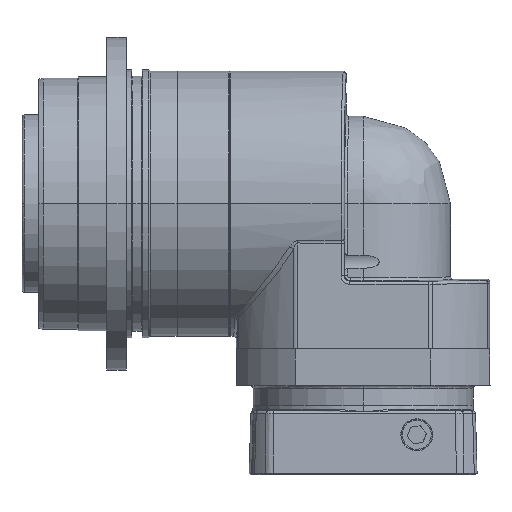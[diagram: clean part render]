
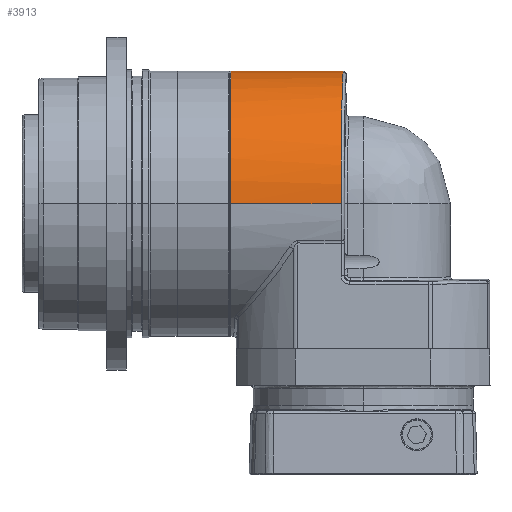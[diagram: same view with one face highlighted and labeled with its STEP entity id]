
A CAD part, top view. The second image highlights one B-rep face of the part: STEP entity #3913.
In plain terms, the highlighted cylindrical face has radius 47 mm (diameter 94 mm), a partial arc.
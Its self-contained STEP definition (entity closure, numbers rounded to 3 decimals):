
#511 = DIRECTION ( 'NONE',  ( 0., 1., 0. ) ) ;
#2087 = CARTESIAN_POINT ( 'NONE',  ( -28.432, 37.425, 307.64 ) ) ;
#2156 = DIRECTION ( 'NONE',  ( 0., 0., -1. ) ) ;
#2392 = CARTESIAN_POINT ( 'NONE',  ( -40.618, 23.928, 307.409 ) ) ;
#2702 = CARTESIAN_POINT ( 'NONE',  ( -15.673, 44.454, 307.76 ) ) ;
#3329 = CARTESIAN_POINT ( 'NONE',  ( -42.222, 20.646, 307.353 ) ) ;
#3785 = EDGE_CURVE ( 'NONE', #20020, #50247, #35482, .T. ) ;
#3913 = ADVANCED_FACE ( 'NONE', ( #61505 ), #55860, .T. ) ;
#3991 = CARTESIAN_POINT ( 'NONE',  ( 0., 0., 347. ) ) ;
#5390 = B_SPLINE_CURVE_WITH_KNOTS ( 'NONE', 3,
 ( #12709, #46190, #59356, #16779, #7390, #55269, #3329, #2392, #31481, #21484, #25865, #22403, #2087, #50562, #26475, #45569, #2702, #40554, #41489, #60595, #35852, #40858 ),
 .UNSPECIFIED., .F., .F.,
 ( 4, 3, 3, 3, 3, 3, 3, 4 ),
 ( 0., 0.12, 0.245, 0.371, 0.497, 0.623, 0.748, 0.847 ),
 .UNSPECIFIED. ) ;
#5897 = CARTESIAN_POINT ( 'NONE',  ( -5.734, -46.737, 307.799 ) ) ;
#6519 = VERTEX_POINT ( 'NONE', #54570 ) ;
#7390 = CARTESIAN_POINT ( 'NONE',  ( -45.042, 13.895, 307.238 ) ) ;
#7535 = EDGE_CURVE ( 'NONE', #6519, #11761, #5390, .T. ) ;
#8053 = ORIENTED_EDGE ( 'NONE', *, *, #29625, .F. ) ;
#8423 = ORIENTED_EDGE ( 'NONE', *, *, #32528, .T. ) ;
#9369 = CARTESIAN_POINT ( 'NONE',  ( -39.009, -27.216, 307.465 ) ) ;
#9921 = EDGE_LOOP ( 'NONE', ( #61092, #32649, #8423, #54722, #8053 ) ) ;
#9985 = CARTESIAN_POINT ( 'NONE',  ( -47., 0., 307. ) ) ;
#10823 = CARTESIAN_POINT ( 'NONE',  ( 0., -46.997, 307.802 ) ) ;
#11761 = VERTEX_POINT ( 'NONE', #13522 ) ;
#12020 = CARTESIAN_POINT ( 'NONE',  ( 0., -47., 347. ) ) ;
#12709 = CARTESIAN_POINT ( 'NONE',  ( -47., 0., 307. ) ) ;
#13034 = CARTESIAN_POINT ( 'NONE',  ( 0., 47., 347. ) ) ;
#13522 = CARTESIAN_POINT ( 'NONE',  ( 0., 46.997, 307.803 ) ) ;
#14069 = CARTESIAN_POINT ( 'NONE',  ( -22.603, -41.851, 307.715 ) ) ;
#15062 = AXIS2_PLACEMENT_3D ( 'NONE', #46780, #42700, #32703 ) ;
#16043 = VECTOR ( 'NONE', #36081, 1000. ) ;
#16779 = CARTESIAN_POINT ( 'NONE',  ( -45.845, 10.332, 307.177 ) ) ;
#19368 = CARTESIAN_POINT ( 'NONE',  ( -45.351, -14.249, 307.244 ) ) ;
#19664 = CARTESIAN_POINT ( 'NONE',  ( -2.867, -46.996, 307.803 ) ) ;
#20020 = VERTEX_POINT ( 'NONE', #46096 ) ;
#21484 = CARTESIAN_POINT ( 'NONE',  ( -36.305, 29.839, 307.51 ) ) ;
#22403 = CARTESIAN_POINT ( 'NONE',  ( -31.341, 35.215, 307.602 ) ) ;
#23691 = EDGE_CURVE ( 'NONE', #36115, #20020, #32985, .T. ) ;
#24657 = CARTESIAN_POINT ( 'NONE',  ( -15.739, -44.885, 307.767 ) ) ;
#25329 = CARTESIAN_POINT ( 'NONE',  ( 0., 47., 347. ) ) ;
#25865 = CARTESIAN_POINT ( 'NONE',  ( -33.986, 32.661, 307.558 ) ) ;
#26475 = CARTESIAN_POINT ( 'NONE',  ( -22.354, 41.498, 307.709 ) ) ;
#29625 = EDGE_CURVE ( 'NONE', #50247, #6519, #55710, .T. ) ;
#31481 = CARTESIAN_POINT ( 'NONE',  ( -38.624, 27.018, 307.462 ) ) ;
#32528 = EDGE_CURVE ( 'NONE', #36115, #11761, #35621, .T. ) ;
#32649 = ORIENTED_EDGE ( 'NONE', *, *, #23691, .F. ) ;
#32703 = DIRECTION ( 'NONE',  ( 0., 1., 0. ) ) ;
#32985 = CIRCLE ( 'NONE', #41951, 47. ) ;
#33450 = CARTESIAN_POINT ( 'NONE',  ( 0., -46.997, 307.802 ) ) ;
#35482 = LINE ( 'NONE', #12020, #16043 ) ;
#35621 = LINE ( 'NONE', #25329, #47310 ) ;
#35852 = CARTESIAN_POINT ( 'NONE',  ( -2.873, 46.996, 307.803 ) ) ;
#36081 = DIRECTION ( 'NONE',  ( 0., 0., -1. ) ) ;
#36115 = VERTEX_POINT ( 'NONE', #13034 ) ;
#40554 = CARTESIAN_POINT ( 'NONE',  ( -12.162, 45.546, 307.778 ) ) ;
#40858 = CARTESIAN_POINT ( 'NONE',  ( 0., 46.997, 307.803 ) ) ;
#41489 = CARTESIAN_POINT ( 'NONE',  ( -8.571, 46.212, 307.79 ) ) ;
#41951 = AXIS2_PLACEMENT_3D ( 'NONE', #3991, #43373, #511 ) ;
#42700 = DIRECTION ( 'NONE',  ( 0., 0., -1. ) ) ;
#42833 = CARTESIAN_POINT ( 'NONE',  ( -34.243, -33.013, 307.564 ) ) ;
#43373 = DIRECTION ( 'NONE',  ( 0., 0., 1. ) ) ;
#45569 = CARTESIAN_POINT ( 'NONE',  ( -19.013, 42.976, 307.734 ) ) ;
#46096 = CARTESIAN_POINT ( 'NONE',  ( 0., -47., 347. ) ) ;
#46190 = CARTESIAN_POINT ( 'NONE',  ( -46.999, 3.474, 307.059 ) ) ;
#46780 = CARTESIAN_POINT ( 'NONE',  ( 0., 0., 347. ) ) ;
#47310 = VECTOR ( 'NONE', #2156, 1000. ) ;
#50247 = VERTEX_POINT ( 'NONE', #10823 ) ;
#50562 = CARTESIAN_POINT ( 'NONE',  ( -25.523, 39.635, 307.677 ) ) ;
#53139 = CARTESIAN_POINT ( 'NONE',  ( -46.999, -7.129, 307.122 ) ) ;
#54570 = CARTESIAN_POINT ( 'NONE',  ( -47., 0., 307. ) ) ;
#54722 = ORIENTED_EDGE ( 'NONE', *, *, #7535, .F. ) ;
#55269 = CARTESIAN_POINT ( 'NONE',  ( -43.827, 17.365, 307.297 ) ) ;
#55710 = B_SPLINE_CURVE_WITH_KNOTS ( 'NONE', 3,
 ( #33450, #19664, #5897, #24657, #14069, #42833, #9369, #19368, #53139, #9985 ),
 .UNSPECIFIED., .F., .F.,
 ( 4, 2, 2, 2, 4 ),
 ( 0.153, 0.252, 0.503, 0.755, 1. ),
 .UNSPECIFIED. ) ;
#55860 = CYLINDRICAL_SURFACE ( 'NONE', #15062, 47. ) ;
#59356 = CARTESIAN_POINT ( 'NONE',  ( -46.608, 6.945, 307.119 ) ) ;
#60595 = CARTESIAN_POINT ( 'NONE',  ( -5.746, 46.736, 307.799 ) ) ;
#61092 = ORIENTED_EDGE ( 'NONE', *, *, #3785, .F. ) ;
#61505 = FACE_OUTER_BOUND ( 'NONE', #9921, .T. ) ;
